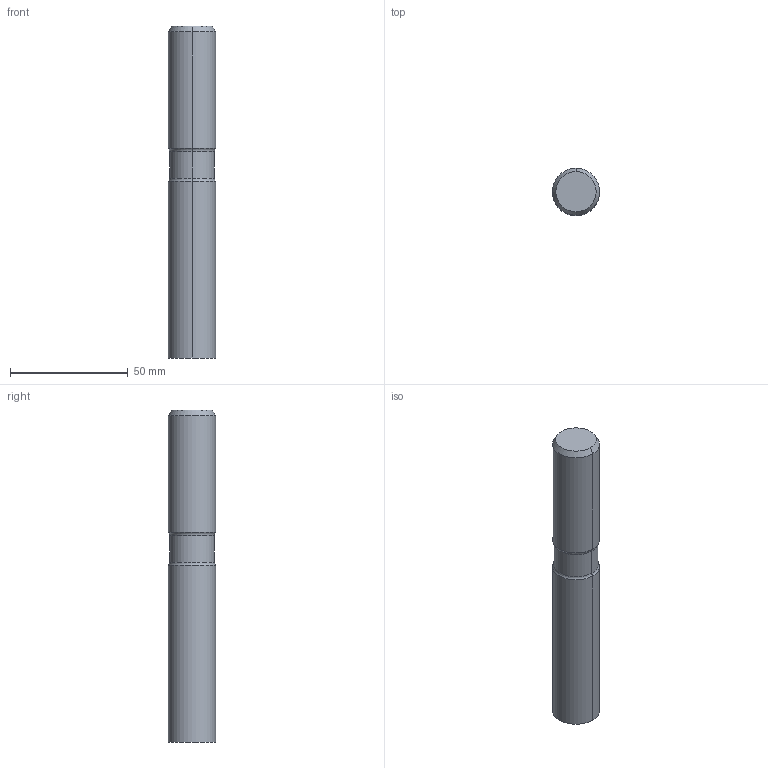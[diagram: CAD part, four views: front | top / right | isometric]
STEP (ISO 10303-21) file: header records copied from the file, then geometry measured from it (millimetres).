
FILE_DESCRIPTION((''),'2;1');
FILE_NAME('DIN4003_82_HEURO','2016-04-19T',('automc'),(''),'PRO/ENGINEER BY PARAMETRIC TECHNOLOGY CORPORATION, 2015280','PRO/ENGINEER BY PARAMETRIC TECHNOLOGY CORPORATION, 2015280','');
FILE_SCHEMA(('AUTOMOTIVE_DESIGN { 1 0 10303 214 1 1 1 1 }'));
Length unit declared in the file: millimetre
Products named in the file (1): DIN4003_82_HEURO
Bounding box: 20 x 20 x 141 mm (x, y, z)
Volume: 43785.2 mm3; surface area: 9388.5 mm2
Topology: 1 solids, 1 shells, 14 faces, 28 edges, 17 vertices
Faces by surface type: bspline 14
Entity records: 1489 total; most frequent: CARTESIAN_POINT 959, DIRECTION 76, ORIENTED_EDGE 52, AXIS2_PLACEMENT_3D 30, EDGE_CURVE 26, PRESENTATION_STYLE_ASSIGNMENT 25, STYLED_ITEM 25, CIRCLE 18
